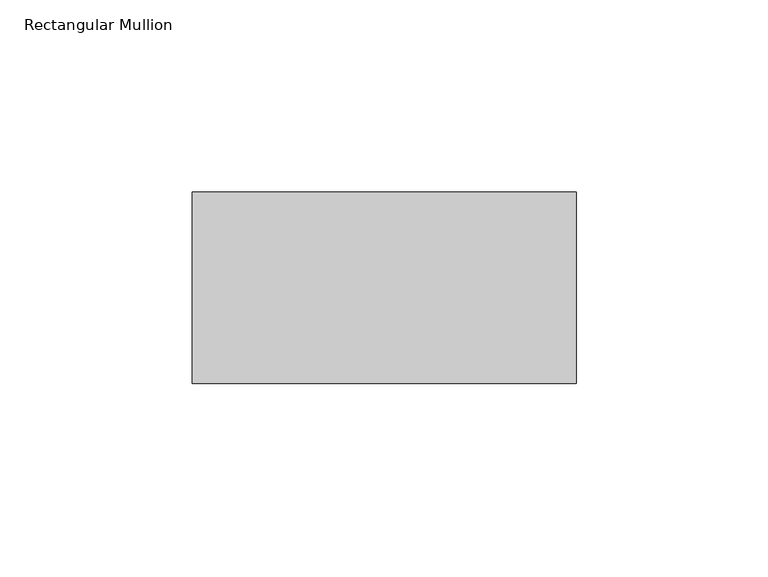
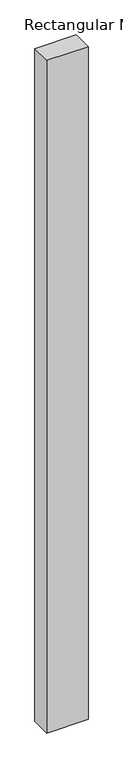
"""IFC4 building model written with IfcOpenShell, lengths in millimetres: member geometry, Rectangular Mullion : Mullion_Curtain Wall_Generic Showcase_50x100mm."""

from ifc_helpers import new_model, si_unit, frame, origin, place, context, project, spatial, polyline, outline, extrude, source, transform, mapped, element, save


def rectangular_mullion_dec3059a(model_context):
    return source(origin(), model_context, "Body", "SweptSolid", [
        extrude(outline(polyline([(0.0, 50.0), (0.0, 0.0), (-100.0, 0.0), (-100.0, 50.0), (0.0, 50.0)])), frame((0.0, 0.0, -1725.0), z_axis=(0.0, 0.0, 1.0), x_axis=(1.0, 0.0, 0.0)), (0.0, 0.0, 1.0), 1725.0),
    ])


if __name__ == "__main__":
    model = new_model("IFC4")
    model_context = context("Model", 3, world=origin())
    ifc_project = project(units=[si_unit("LENGTHUNIT", "METRE", prefix="MILLI")], contexts=[model_context])
    site = spatial("IfcSite", under=ifc_project)
    building = spatial("IfcBuilding", under=site)
    placement = place(None, origin())
    rectangular_mullion_shape = rectangular_mullion_dec3059a(model_context)
    element("IfcMember", 1, ObjectType="Rectangular Mullion : Mullion_Curtain Wall_Generic Showcase_50x100mm", at=placement, inside=building, context=model_context, shape_type="MappedRepresentation", body=[
        mapped(rectangular_mullion_shape, transform((0.0, 0.0, 0.0), x_axis=(1.0, 0.0, 0.0), y_axis=(0.0, 1.0, 0.0), z_axis=(0.0, 0.0, 1.0))),
    ])
    save(model, "model.ifc")
